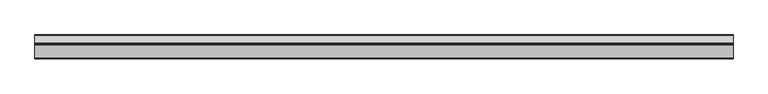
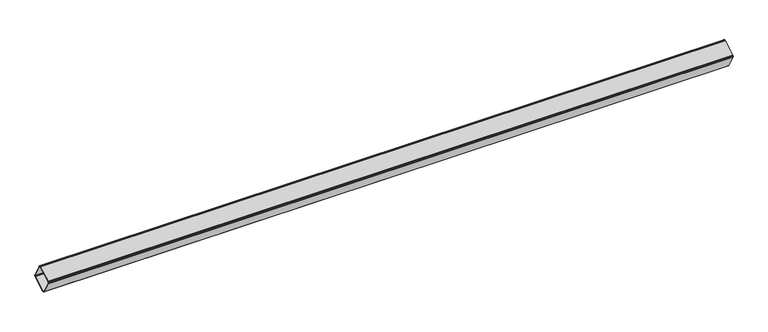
"""IFC4 building model written with IfcOpenShell, lengths in millimetres: beam geometry, Buton 141550 : Buton 141550."""

from ifc_helpers import new_model, si_unit, frame, origin, place, context, project, spatial, polyline, outline, extrude, source, transform, mapped, element, save


def beam_c4069fb1(model_context):
    return source(origin(), model_context, "Body", "SweptSolid", [
        extrude(outline(polyline([(-36513.5277892, 9379.5054949), (-36440.153053, 9420.3974024), (-36437.8030118, 9421.2588385), (-36435.3017914, 9421.3519102), (-36432.8942286, 9420.6675071), (-36430.8159926, 9419.2726233), (-36429.2705155, 9417.3037996), (-36388.3786081, 9343.9290635), (-36387.517172, 9341.5790223), (-36387.4241002, 9339.0778018), (-36388.1085034, 9336.6702391), (-36389.5033872, 9334.5920031), (-36391.4722108, 9333.046526), (-36464.846947, 9292.1546186), (-36467.1969882, 9291.2931825), (-36469.6982086, 9291.2001107), (-36472.1057714, 9291.8845138), (-36474.1840074, 9293.2793977), (-36475.7294845, 9295.2482213), (-36516.6213919, 9368.6229575), (-36517.482828, 9370.9729987), (-36517.5758998, 9373.4742191), (-36516.8914966, 9375.8817818), (-36515.4966128, 9377.9600178), (-36513.5277892, 9379.5054949)]), holes=[polyline([(-36513.1273569, 9370.5701911), (-36472.2354494, 9297.195455), (-36471.4627109, 9296.2110432), (-36470.4235929, 9295.5136012), (-36469.2198115, 9295.1713997), (-36467.9692013, 9295.2179356), (-36466.7941807, 9295.6486536), (-36393.4194445, 9336.540561), (-36392.4350327, 9337.3132996), (-36391.7375908, 9338.3524176), (-36391.3953892, 9339.556199), (-36391.4419251, 9340.8068092), (-36391.8726431, 9341.9818298), (-36432.7645506, 9415.356566), (-36433.5372891, 9416.3409778), (-36434.5764071, 9417.0384197), (-36435.7801885, 9417.3806212), (-36437.0307987, 9417.3340854), (-36438.2058193, 9416.9033673), (-36511.5805555, 9376.0114599), (-36512.5649673, 9375.2387213), (-36513.2624092, 9374.1996033), (-36513.6046108, 9372.995822), (-36513.5580749, 9371.7452118), (-36513.1273569, 9370.5701911)])]), frame((7654.9999999, 0.0, 0.0), z_axis=(1.0, 0.0, 0.0), x_axis=(0.0, 1.0, 0.0)), (0.0, 0.0, 1.0), 3792.5),
    ])


if __name__ == "__main__":
    model = new_model("IFC4")
    model_context = context("Model", 3, world=origin())
    ifc_project = project(units=[si_unit("LENGTHUNIT", "METRE", prefix="MILLI")], contexts=[model_context])
    site = spatial("IfcSite", under=ifc_project)
    building = spatial("IfcBuilding", under=site)
    placement = place(None, origin())
    beam_shape = beam_c4069fb1(model_context)
    element("IfcBeam", 1, ObjectType="Buton 141550 : Buton 141550", at=placement, inside=building, context=model_context, shape_type="MappedRepresentation", body=[
        mapped(beam_shape, transform((0.0, 0.0, 0.0), x_axis=(1.0, 0.0, 0.0), y_axis=(0.0, 1.0, 0.0), z_axis=(0.0, 0.0, 1.0))),
    ])
    save(model, "model.ifc")
